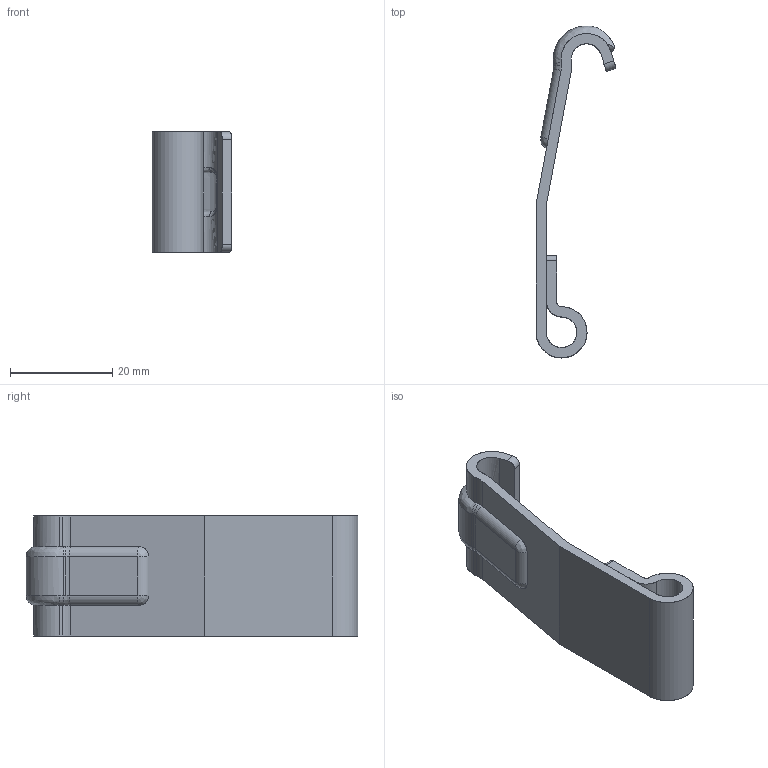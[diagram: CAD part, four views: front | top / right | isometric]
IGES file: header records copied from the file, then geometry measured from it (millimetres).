
Start section: SolidWorks IGES FILE using analytic representation for surfaces
Global section: file name: C:\Documents and Settings\brechard\Bureau\GE 84\84.032.00.IGS; native system: SolidWorks 2001Plus by SolidWorks Corporation; preprocessor: Version 5.3; author: brechard; date: 050126.111844; units: millimetre
Bounding box: 15.66 x 64.98 x 23.5 mm (x, y, z)
Surface area: 5356.6 mm2 (no closed solid volume)
Topology: 0 solids, 0 shells, 80 faces, 900 edges, 898 vertices
Faces by surface type: revolution 44, bspline 36
